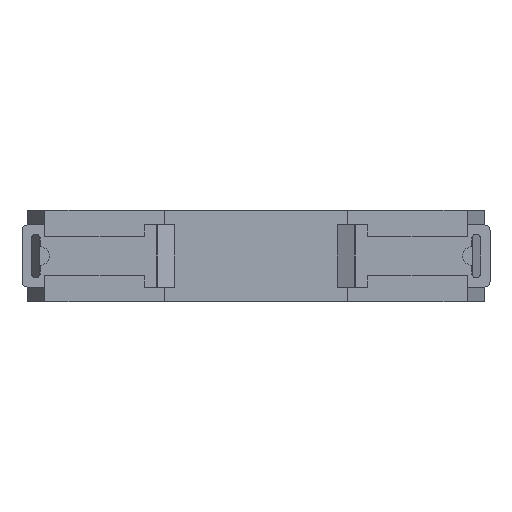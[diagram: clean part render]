
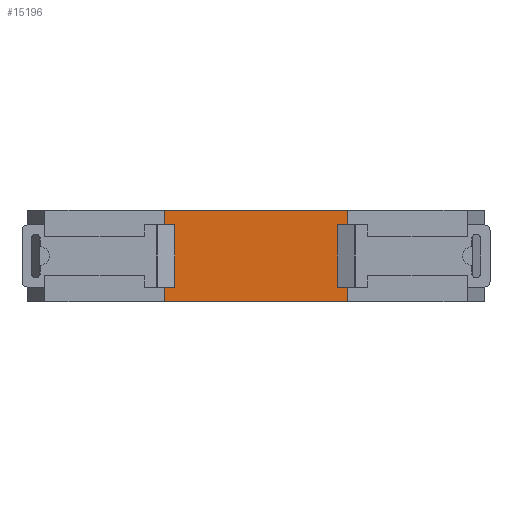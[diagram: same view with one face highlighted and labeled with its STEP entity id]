
A CAD part, left-side view. The second image highlights one B-rep face of the part: STEP entity #15196.
In plain terms, the highlighted planar face has unit normal (-1, 0, 0).
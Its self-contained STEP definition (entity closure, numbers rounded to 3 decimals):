
#408 = CARTESIAN_POINT ( 'NONE',  ( -60., -4.25, 0. ) ) ;
#471 = LINE ( 'NONE', #5169, #3313 ) ;
#823 = DIRECTION ( 'NONE',  ( 0., 1., 0. ) ) ;
#877 = FACE_OUTER_BOUND ( 'NONE', #15418, .T. ) ;
#936 = PLANE ( 'NONE',  #15471 ) ;
#959 = EDGE_CURVE ( 'NONE', #5513, #10166, #13428, .T. ) ;
#1076 = VERTEX_POINT ( 'NONE', #9847 ) ;
#2116 = CARTESIAN_POINT ( 'NONE',  ( -60., -4.25, 18. ) ) ;
#2474 = VERTEX_POINT ( 'NONE', #5825 ) ;
#2508 = DIRECTION ( 'NONE',  ( 0., 0., -1. ) ) ;
#2857 = ORIENTED_EDGE ( 'NONE', *, *, #3673, .F. ) ;
#3313 = VECTOR ( 'NONE', #3785, 1000. ) ;
#3580 = ORIENTED_EDGE ( 'NONE', *, *, #959, .T. ) ;
#3673 = EDGE_CURVE ( 'NONE', #5513, #1076, #471, .T. ) ;
#3785 = DIRECTION ( 'NONE',  ( 0., -1., 0. ) ) ;
#3879 = EDGE_CURVE ( 'NONE', #1076, #2474, #14026, .T. ) ;
#5011 = CARTESIAN_POINT ( 'NONE',  ( -60., -4.25, 0. ) ) ;
#5169 = CARTESIAN_POINT ( 'NONE',  ( -60., -4.25, 18. ) ) ;
#5436 = CARTESIAN_POINT ( 'NONE',  ( -60., -40.25, 18. ) ) ;
#5513 = VERTEX_POINT ( 'NONE', #2116 ) ;
#5665 = DIRECTION ( 'NONE',  ( 1., 0., 0. ) ) ;
#5825 = CARTESIAN_POINT ( 'NONE',  ( -60., -40.25, 0. ) ) ;
#6351 = VECTOR ( 'NONE', #14202, 1000. ) ;
#7462 = CARTESIAN_POINT ( 'NONE',  ( -60., -4.25, 18. ) ) ;
#7967 = DIRECTION ( 'NONE',  ( 0., -1., 0. ) ) ;
#8883 = LINE ( 'NONE', #408, #11179 ) ;
#9847 = CARTESIAN_POINT ( 'NONE',  ( -60., -40.25, 18. ) ) ;
#10166 = VERTEX_POINT ( 'NONE', #5011 ) ;
#11179 = VECTOR ( 'NONE', #7967, 1000. ) ;
#11348 = ORIENTED_EDGE ( 'NONE', *, *, #3879, .F. ) ;
#12028 = CARTESIAN_POINT ( 'NONE',  ( -60., -4.25, 18. ) ) ;
#13428 = LINE ( 'NONE', #7462, #15152 ) ;
#14026 = LINE ( 'NONE', #5436, #6351 ) ;
#14202 = DIRECTION ( 'NONE',  ( 0., 0., -1. ) ) ;
#14653 = EDGE_CURVE ( 'NONE', #10166, #2474, #8883, .T. ) ;
#14946 = ORIENTED_EDGE ( 'NONE', *, *, #14653, .T. ) ;
#15152 = VECTOR ( 'NONE', #2508, 1000. ) ;
#15196 = ADVANCED_FACE ( 'NONE', ( #877 ), #936, .F. ) ;
#15418 = EDGE_LOOP ( 'NONE', ( #14946, #11348, #2857, #3580 ) ) ;
#15471 = AXIS2_PLACEMENT_3D ( 'NONE', #12028, #5665, #823 ) ;
